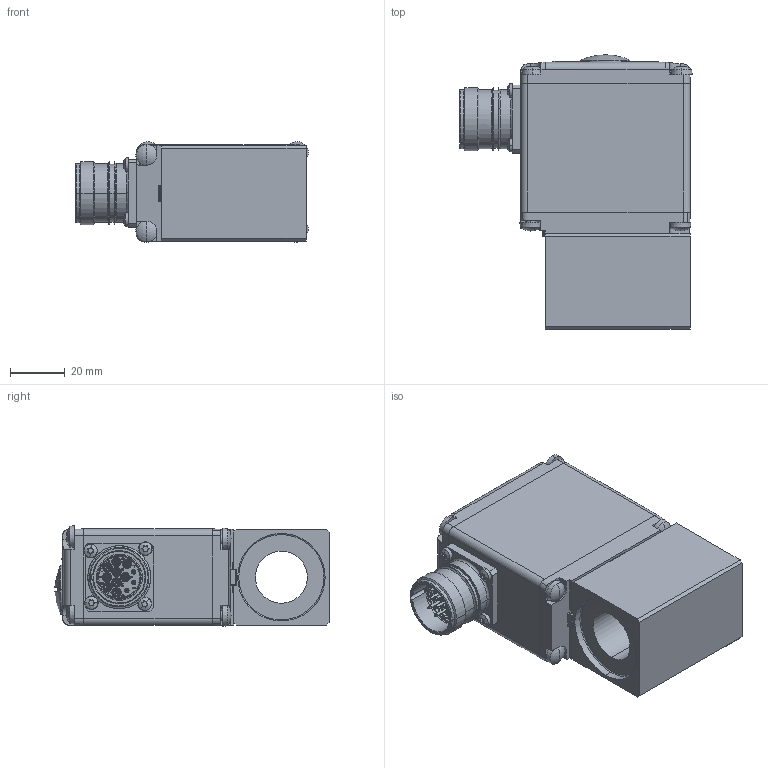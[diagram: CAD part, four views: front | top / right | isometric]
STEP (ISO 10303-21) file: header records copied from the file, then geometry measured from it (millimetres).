
FILE_DESCRIPTION (( 'STEP AP214' ), '1' );
FILE_NAME ('ME35_19x50-...A..STEP', '2014-04-03T06:53:44', ( '' ), ( '' ), 'SwSTEP 2.0', 'SolidWorks 2012', '' );
FILE_SCHEMA (( 'AUTOMOTIVE_DESIGN' ));
Length unit declared in the file: millimetre
Products named in the file (1): ME35_19x50-...A.
Bounding box: 85.1 x 100.39 x 36.78 mm (x, y, z)
Volume: 188530.6 mm3; surface area: 32878.9 mm2
Topology: 4 solids, 4 shells, 2192 faces, 6192 edges, 4077 vertices
Faces by surface type: plane 1500, cylinder 348, torus 123, cone 92, bspline 83, sphere 46
Entity records: 77822 total; most frequent: CARTESIAN_POINT 18762, ORIENTED_EDGE 12376, DIRECTION 10823, EDGE_CURVE 6188, LINE 4439, VECTOR 4439, VERTEX_POINT 4077, AXIS2_PLACEMENT_3D 3192
